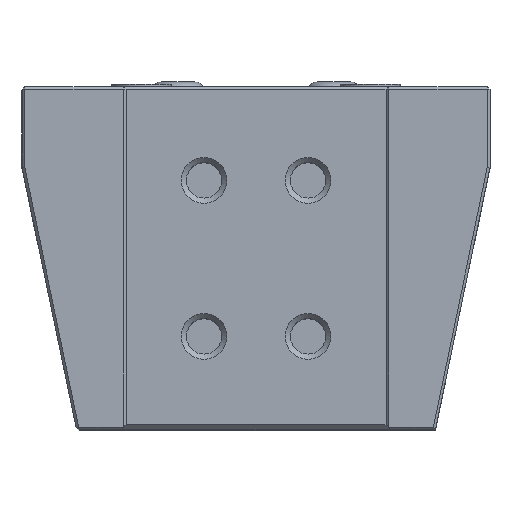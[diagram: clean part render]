
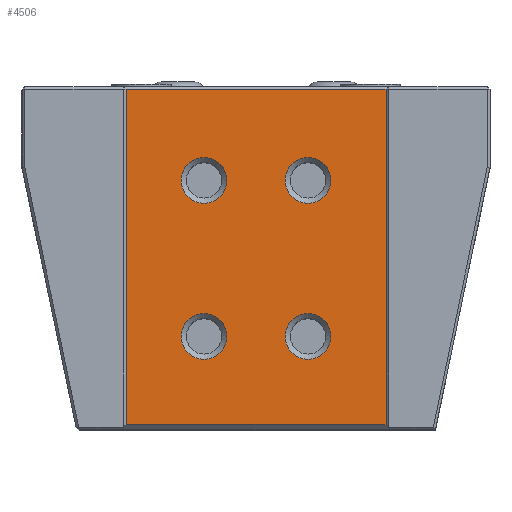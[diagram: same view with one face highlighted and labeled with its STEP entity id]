
A CAD part, top view. The second image highlights one B-rep face of the part: STEP entity #4506.
In plain terms, the highlighted planar face has unit normal (0, 0, 1).
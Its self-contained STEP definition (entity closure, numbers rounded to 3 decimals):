
#72=FACE_BOUND('',#657,.T.);
#73=FACE_BOUND('',#658,.T.);
#74=FACE_BOUND('',#659,.T.);
#75=FACE_BOUND('',#660,.T.);
#170=PLANE('',#4812);
#389=FACE_OUTER_BOUND('',#656,.T.);
#656=EDGE_LOOP('',(#3219,#3220,#3221,#3222));
#657=EDGE_LOOP('',(#3223));
#658=EDGE_LOOP('',(#3224));
#659=EDGE_LOOP('',(#3225));
#660=EDGE_LOOP('',(#3226));
#980=LINE('',#6613,#1439);
#1054=LINE('',#6751,#1513);
#1055=LINE('',#6754,#1514);
#1056=LINE('',#6755,#1515);
#1439=VECTOR('',#5320,10.);
#1513=VECTOR('',#5456,10.);
#1514=VECTOR('',#5459,10.);
#1515=VECTOR('',#5460,10.);
#1839=CIRCLE('',#4813,4.4);
#1840=CIRCLE('',#4814,4.4);
#1841=CIRCLE('',#4815,4.4);
#1842=CIRCLE('',#4816,4.4);
#2037=VERTEX_POINT('',#6610);
#2038=VERTEX_POINT('',#6612);
#2070=VERTEX_POINT('',#6745);
#2072=VERTEX_POINT('',#6753);
#2073=VERTEX_POINT('',#6756);
#2074=VERTEX_POINT('',#6758);
#2075=VERTEX_POINT('',#6760);
#2076=VERTEX_POINT('',#6762);
#2444=EDGE_CURVE('',#2037,#2038,#980,.T.);
#2518=EDGE_CURVE('',#2070,#2038,#1054,.T.);
#2519=EDGE_CURVE('',#2072,#2037,#1055,.T.);
#2520=EDGE_CURVE('',#2070,#2072,#1056,.T.);
#2521=EDGE_CURVE('',#2073,#2073,#1839,.T.);
#2522=EDGE_CURVE('',#2074,#2074,#1840,.T.);
#2523=EDGE_CURVE('',#2075,#2075,#1841,.T.);
#2524=EDGE_CURVE('',#2076,#2076,#1842,.T.);
#3219=ORIENTED_EDGE('',*,*,#2444,.F.);
#3220=ORIENTED_EDGE('',*,*,#2519,.F.);
#3221=ORIENTED_EDGE('',*,*,#2520,.F.);
#3222=ORIENTED_EDGE('',*,*,#2518,.T.);
#3223=ORIENTED_EDGE('',*,*,#2521,.F.);
#3224=ORIENTED_EDGE('',*,*,#2522,.F.);
#3225=ORIENTED_EDGE('',*,*,#2523,.F.);
#3226=ORIENTED_EDGE('',*,*,#2524,.F.);
#4506=ADVANCED_FACE('',(#389,#72,#73,#74,#75),#170,.F.);
#4812=AXIS2_PLACEMENT_3D('',#6752,#5457,#5458);
#4813=AXIS2_PLACEMENT_3D('',#6757,#5461,#5462);
#4814=AXIS2_PLACEMENT_3D('',#6759,#5463,#5464);
#4815=AXIS2_PLACEMENT_3D('',#6761,#5465,#5466);
#4816=AXIS2_PLACEMENT_3D('',#6763,#5467,#5468);
#5320=DIRECTION('',(1.,0.,0.));
#5456=DIRECTION('',(0.,1.,0.));
#5457=DIRECTION('center_axis',(0.,0.,-1.));
#5458=DIRECTION('ref_axis',(-1.,0.,0.));
#5459=DIRECTION('',(0.,1.,0.));
#5460=DIRECTION('',(-1.,0.,0.));
#5461=DIRECTION('center_axis',(0.,0.,1.));
#5462=DIRECTION('ref_axis',(-1.,0.,0.));
#5463=DIRECTION('center_axis',(0.,0.,1.));
#5464=DIRECTION('ref_axis',(-1.,0.,0.));
#5465=DIRECTION('center_axis',(0.,0.,1.));
#5466=DIRECTION('ref_axis',(-1.,0.,0.));
#5467=DIRECTION('center_axis',(0.,0.,1.));
#5468=DIRECTION('ref_axis',(-1.,0.,0.));
#6610=CARTESIAN_POINT('',(20.,65.5,-25.));
#6612=CARTESIAN_POINT('',(70.,65.5,-25.));
#6613=CARTESIAN_POINT('',(57.5,65.5,-25.));
#6745=CARTESIAN_POINT('',(70.,1.,-25.));
#6751=CARTESIAN_POINT('',(70.,0.,-25.));
#6752=CARTESIAN_POINT('Origin',(70.,0.,-25.));
#6753=CARTESIAN_POINT('',(20.,1.,-25.));
#6754=CARTESIAN_POINT('',(20.,0.,-25.));
#6755=CARTESIAN_POINT('',(57.5,1.,-25.));
#6756=CARTESIAN_POINT('',(39.4,18.,-25.));
#6757=CARTESIAN_POINT('Origin',(35.,18.,-25.));
#6758=CARTESIAN_POINT('',(59.4,48.,-25.));
#6759=CARTESIAN_POINT('Origin',(55.,48.,-25.));
#6760=CARTESIAN_POINT('',(39.4,48.,-25.));
#6761=CARTESIAN_POINT('Origin',(35.,48.,-25.));
#6762=CARTESIAN_POINT('',(59.4,18.,-25.));
#6763=CARTESIAN_POINT('Origin',(55.,18.,-25.));
